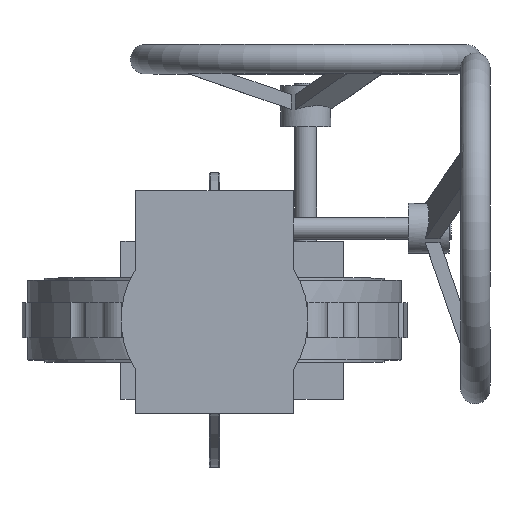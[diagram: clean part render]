
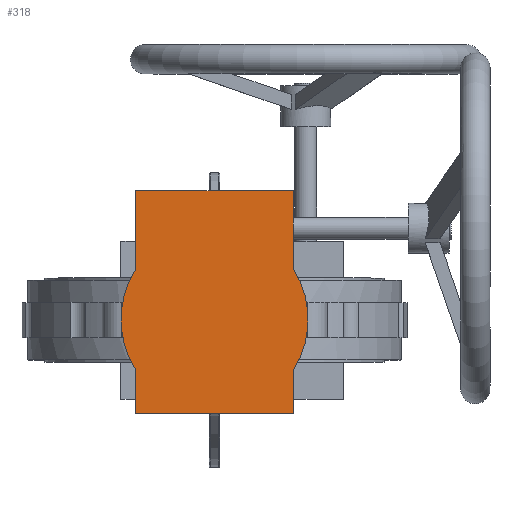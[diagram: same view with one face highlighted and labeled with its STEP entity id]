
A CAD part, top view. The second image highlights one B-rep face of the part: STEP entity #318.
In plain terms, the highlighted planar face has unit normal (0, 0, 1) as drawn and (0, 0, -1) by its records, which use the part's own axes.
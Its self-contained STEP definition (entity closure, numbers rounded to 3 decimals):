
#318 = ADVANCED_FACE( '', ( #875 ), #876, .F. );
#875 = FACE_OUTER_BOUND( '', #1745, .T. );
#876 = PLANE( '', #1746 );
#1745 = EDGE_LOOP( '', ( #4052, #4053, #4054, #4055, #4056, #4057, #4058, #4059 ) );
#1746 = AXIS2_PLACEMENT_3D( '', #4060, #4061, #4062 );
#4052 = ORIENTED_EDGE( '', *, *, #6767, .F. );
#4053 = ORIENTED_EDGE( '', *, *, #6768, .F. );
#4054 = ORIENTED_EDGE( '', *, *, #6769, .F. );
#4055 = ORIENTED_EDGE( '', *, *, #6770, .F. );
#4056 = ORIENTED_EDGE( '', *, *, #6771, .F. );
#4057 = ORIENTED_EDGE( '', *, *, #6772, .F. );
#4058 = ORIENTED_EDGE( '', *, *, #6773, .F. );
#4059 = ORIENTED_EDGE( '', *, *, #6774, .F. );
#4060 = CARTESIAN_POINT( '', ( 0., 0., 0. ) );
#4061 = DIRECTION( '', ( 0., 0., 1. ) );
#4062 = DIRECTION( '', ( 1., 0., 0. ) );
#6767 = EDGE_CURVE( '', #7764, #7765, #7766, .T. );
#6768 = EDGE_CURVE( '', #7767, #7764, #7768, .T. );
#6769 = EDGE_CURVE( '', #7769, #7767, #7770, .T. );
#6770 = EDGE_CURVE( '', #7771, #7769, #7772, .T. );
#6771 = EDGE_CURVE( '', #7773, #7771, #7774, .T. );
#6772 = EDGE_CURVE( '', #7775, #7773, #7776, .T. );
#6773 = EDGE_CURVE( '', #7777, #7775, #7778, .T. );
#6774 = EDGE_CURVE( '', #7765, #7777, #7779, .T. );
#7764 = VERTEX_POINT( '', #9384 );
#7765 = VERTEX_POINT( '', #9385 );
#7766 = CIRCLE( '', #9386, 80. );
#7767 = VERTEX_POINT( '', #9387 );
#7768 = LINE( '', #9388, #9389 );
#7769 = VERTEX_POINT( '', #9390 );
#7770 = LINE( '', #9391, #9392 );
#7771 = VERTEX_POINT( '', #9393 );
#7772 = LINE( '', #9394, #9395 );
#7773 = VERTEX_POINT( '', #9396 );
#7774 = CIRCLE( '', #9397, 80. );
#7775 = VERTEX_POINT( '', #9398 );
#7776 = LINE( '', #9399, #9400 );
#7777 = VERTEX_POINT( '', #9401 );
#7778 = LINE( '', #9402, #9403 );
#7779 = LINE( '', #9404, #9405 );
#9384 = CARTESIAN_POINT( '', ( -42.939, -67.5, 0. ) );
#9385 = CARTESIAN_POINT( '', ( 42.939, -67.5, 0. ) );
#9386 = AXIS2_PLACEMENT_3D( '', #15594, #15595, #15596 );
#9387 = CARTESIAN_POINT( '', ( -80., -67.5, 0. ) );
#9388 = CARTESIAN_POINT( '', ( -80., -67.5, 0. ) );
#9389 = VECTOR( '', #15597, 1000. );
#9390 = CARTESIAN_POINT( '', ( -80., 67.5, 0. ) );
#9391 = CARTESIAN_POINT( '', ( -80., 67.5, 0. ) );
#9392 = VECTOR( '', #15598, 1000. );
#9393 = CARTESIAN_POINT( '', ( -42.939, 67.5, 0. ) );
#9394 = CARTESIAN_POINT( '', ( -42.939, 67.5, 0. ) );
#9395 = VECTOR( '', #15599, 1000. );
#9396 = CARTESIAN_POINT( '', ( 42.939, 67.5, 0. ) );
#9397 = AXIS2_PLACEMENT_3D( '', #15600, #15601, #15602 );
#9398 = CARTESIAN_POINT( '', ( 110., 67.5, 0. ) );
#9399 = CARTESIAN_POINT( '', ( 110., 67.5, 0. ) );
#9400 = VECTOR( '', #15603, 1000. );
#9401 = CARTESIAN_POINT( '', ( 110., -67.5, 0. ) );
#9402 = CARTESIAN_POINT( '', ( 110., -67.5, 0. ) );
#9403 = VECTOR( '', #15604, 1000. );
#9404 = CARTESIAN_POINT( '', ( 42.939, -67.5, 0. ) );
#9405 = VECTOR( '', #15605, 1000. );
#15594 = CARTESIAN_POINT( '', ( 0., 0., 0. ) );
#15595 = DIRECTION( '', ( 0., 0., 1. ) );
#15596 = DIRECTION( '', ( 1., 0., 0. ) );
#15597 = DIRECTION( '', ( 1., 0., 0. ) );
#15598 = DIRECTION( '', ( 0., -1., 0. ) );
#15599 = DIRECTION( '', ( -1., 0., 0. ) );
#15600 = CARTESIAN_POINT( '', ( 0., 0., 0. ) );
#15601 = DIRECTION( '', ( 0., 0., 1. ) );
#15602 = DIRECTION( '', ( 1., 0., 0. ) );
#15603 = DIRECTION( '', ( -1., 0., 0. ) );
#15604 = DIRECTION( '', ( 0., 1., 0. ) );
#15605 = DIRECTION( '', ( 1., 0., 0. ) );
